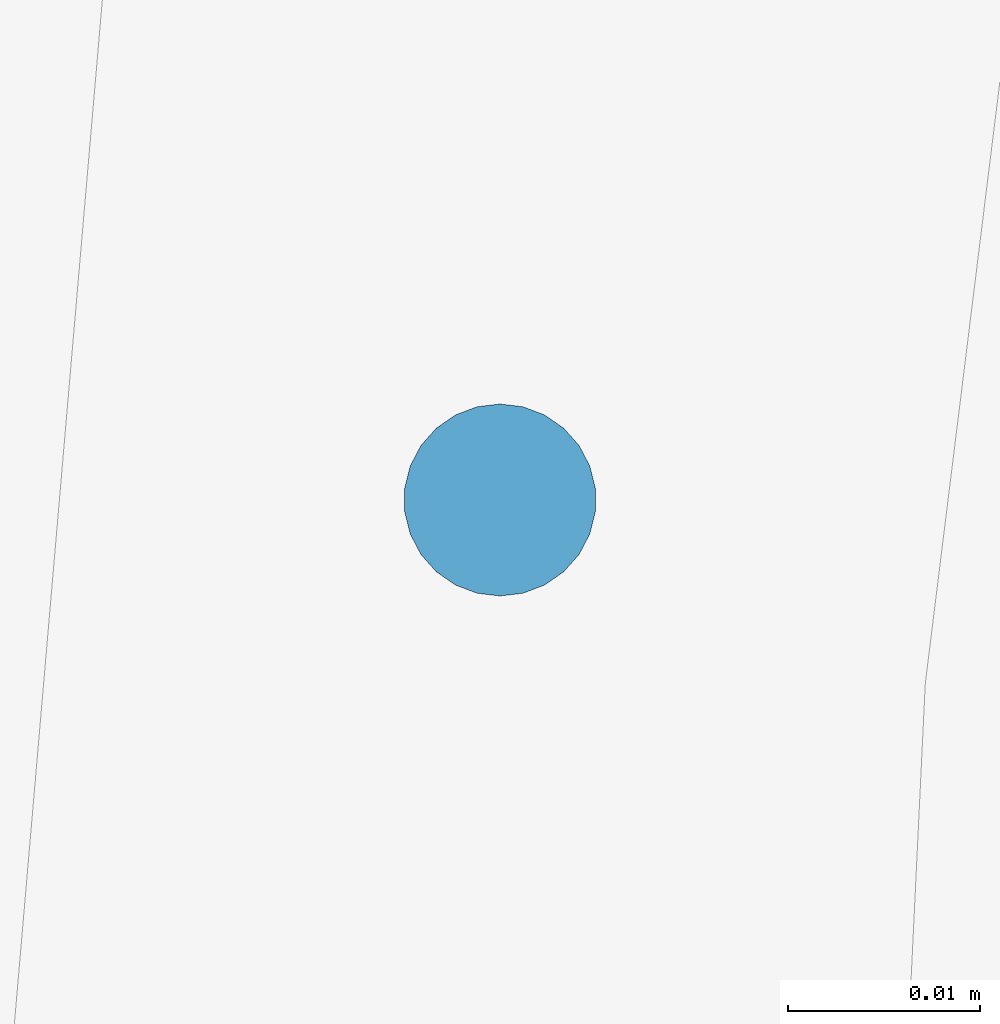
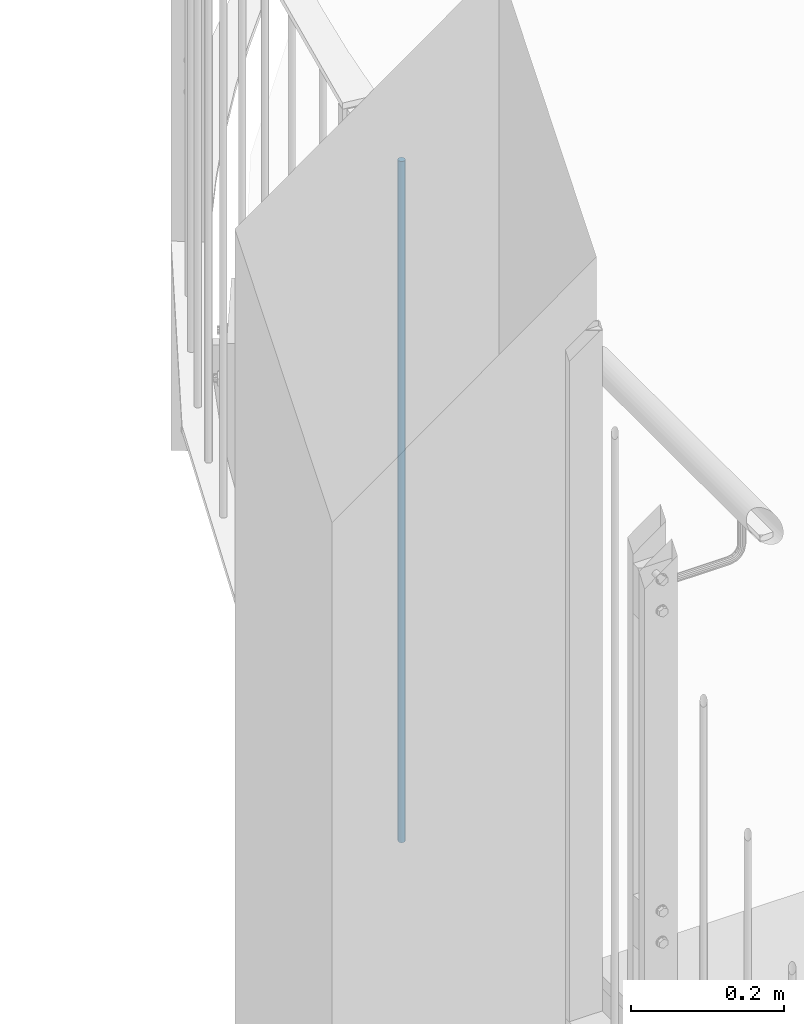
# One storey, part 55 of 296: 1 column.
"""IFC2X3 building model written with IfcOpenShell, lengths in millimetres."""

from ifc_helpers import new_model, entity, si_unit, converted_unit, frame, origin, origin_with_axes, origin_2d, place, context, project, spatial, circle, extrude, material, element, save


model = new_model("IFC2X3")

# Units and contexts
model_context = context("Model", 3, precision=1e-09, world=origin_with_axes())
ifc_project = project(units=[si_unit("LENGTHUNIT", "METRE", prefix="MILLI"), si_unit("AREAUNIT", "SQUARE_METRE"), si_unit("VOLUMEUNIT", "CUBIC_METRE"), converted_unit("PLANEANGLEUNIT", "DEGREE", entity("IfcPlaneAngleMeasure", 0.01745329), si_unit("PLANEANGLEUNIT", "RADIAN"), dimensions=[0, 0, 0, 0, 0, 0, 0])], contexts=[model_context])

# Site, building, storey
site_placement = place(None, origin_with_axes())
site = spatial("IfcSite", under=ifc_project, at=site_placement, Name="TZD-S?d | Treppenhausgel?nder", CompositionType="ELEMENT")
building_placement = place(site_placement, origin_with_axes())
building = spatial("IfcBuilding", under=site, at=building_placement, Name="Struktur 1", CompositionType="ELEMENT")
storey_placement = place(building_placement, origin_with_axes())
storey = spatial("IfcBuildingStorey", under=building, at=storey_placement, Name="Default Storey", CompositionType="ELEMENT", Elevation=0.0)

# Column
ifc_material = material(Name="S235JR")
column_placement = place(None, frame((-53.37643005, 163.389143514, 11725.0), z_axis=(0.0, 0.0, 1.0), x_axis=(0.0, 1.0, 0.0)))
element("IfcColumn", 1, at=column_placement, inside=storey, material=ifc_material, Name="-", ObjectType="-", context=model_context, shape_type="SweptSolid", body=[
    extrude(circle(Radius=5.0, at=origin_2d()), origin(), (0.0, 0.0, 1.0), 1090.0),
])

save(model, "model.ifc")
